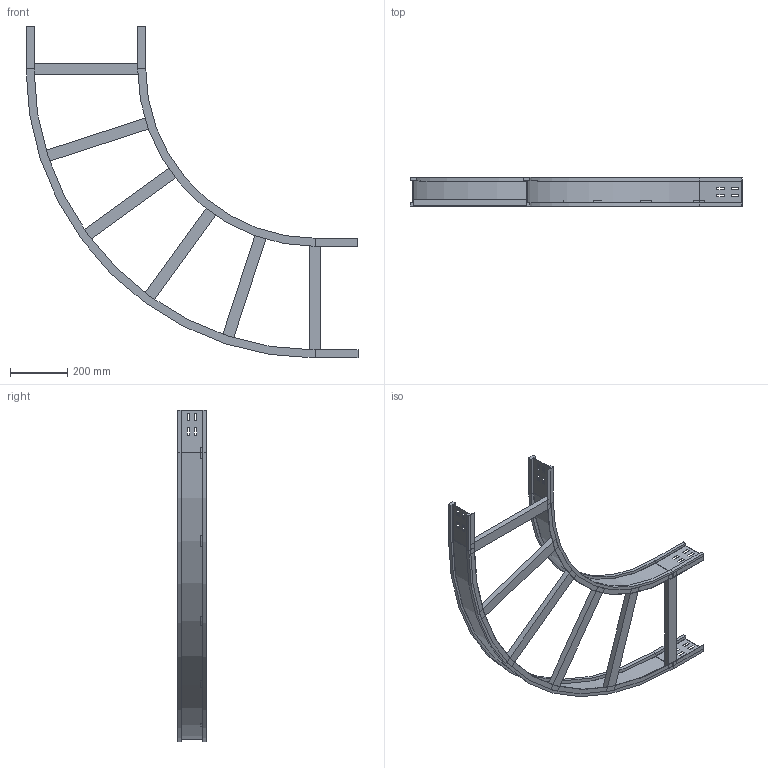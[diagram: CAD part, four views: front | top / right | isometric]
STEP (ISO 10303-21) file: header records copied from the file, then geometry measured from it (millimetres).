
FILE_DESCRIPTION (( 'STEP AP214' ), '1' );
FILE_NAME ('10S6D400.step', '2025-02-21T16:09:32', ( '' ), ( '' ), 'SwSTEP 2.0', 'SolidWorks 2023', '' );
FILE_SCHEMA (( 'AUTOMOTIVE_DESIGN' ));
Length unit declared in the file: millimetre
Products named in the file (4): TRAVERSINO_400; LONGH.INTERNO 90°_H100_R600; LONGH.ESTERNO 90°_H100_R600+400; 10S6D400
Assembly tree (8 placements, depth 2):
  10S6D400
    LONGH.INTERNO 90°_H100_R600
    LONGH.ESTERNO 90°_H100_R600+400
    TRAVERSINO_400  x6
Bounding box: 1159 x 100 x 1159 mm (x, y, z)
Volume: 3574833.6 mm3; surface area: 1219137.4 mm2
Topology: 8 solids, 8 shells, 176 faces, 432 edges, 272 vertices
Faces by surface type: plane 164, cylinder 12
Entity records: 4501 total; most frequent: CARTESIAN_POINT 761, ORIENTED_EDGE 744, DIRECTION 710, EDGE_CURVE 372, LINE 348, VECTOR 348, VERTEX_POINT 232, AXIS2_PLACEMENT_3D 181
